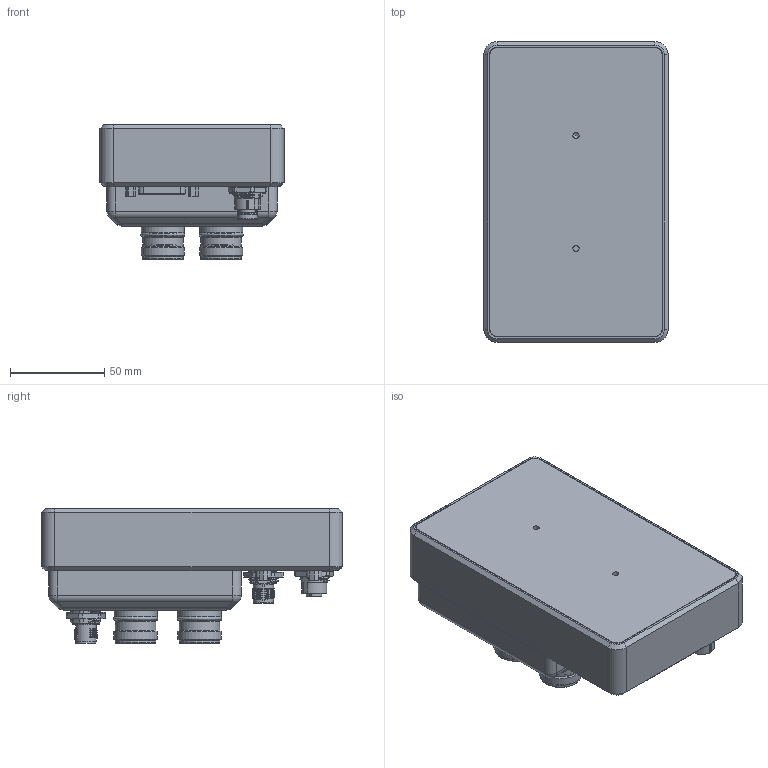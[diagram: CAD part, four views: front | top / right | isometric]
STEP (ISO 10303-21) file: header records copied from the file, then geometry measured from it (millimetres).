
FILE_DESCRIPTION(/* description */ (''),/* implementation_level */ '2;1');
FILE_NAME(/* name */ 'I:\Users\Alle\Inventor\_Projekte\254_B40.0 Irinos\Vereinfachte Modelle\Irinos SC-DIO M23.stp',/* time_stamp */ '2022-11-14T09:02:01+01:00',/* author */ ('PE'),/* organization */ (''),/* preprocessor_version */ 'ST-DEVELOPER v18.1',/* originating_system */ 'Autodesk Inventor 2021',/* authorisation */ '');
FILE_SCHEMA (('AUTOMOTIVE_DESIGN { 1 0 10303 214 3 1 1 }'));
Products named in the file (1): B40.0 DIO D37_vereinfacht
Bounding box: 98 x 160 x 71.8 mm (x, y, z)
Volume: 727675.4 mm3; surface area: 77623.4 mm2
Topology: 1 solids, 1 shells, 4639 faces, 12669 edges, 8323 vertices
Faces by surface type: plane 3347, cylinder 517, bspline 402, cone 226, torus 131, sphere 16
Full cylindrical faces by diameter (mm): 1 x10, 1.1 x64, 1.2 x30, 1.36 x2, 1.5 x8, 1.9 x4, 2.459 x4, 2.5 x1, 3.242 x2, 8.9 x2, 10.7 x1, 10.75 x2, 10.9 x1, 11.13 x1, 12.2 x1, 14.6 x3, 16 x4, 16.1 x2, 19.114 x4, 20.4 x4, 21.418 x8, 21.5 x4, 21.7 x4, 22.9 x4, 23 x4
Entity records: 200016 total; most frequent: CARTESIAN_POINT 80126, ORIENTED_EDGE 25326, DIRECTION 21441, EDGE_CURVE 12663, LINE 9695, VECTOR 9695, VERTEX_POINT 8323, AXIS2_PLACEMENT_3D 5873
